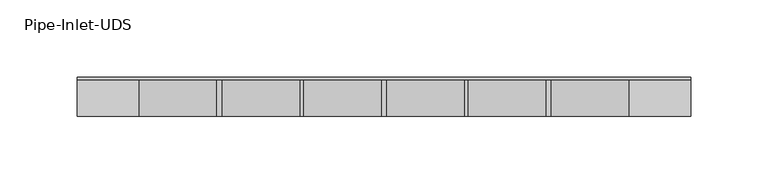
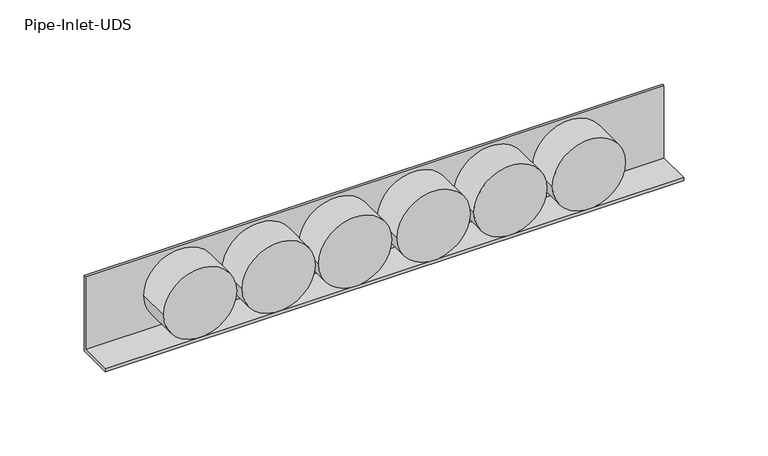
"""IFC4 building model written with IfcOpenShell, lengths in millimetres: cable carrier fitting geometry, Electrical-Installations_Hager_Pipe-Inlet-UDS : Pipe-Inlet-UDS."""

import ifcopenshell
import ifcopenshell.guid

model = None  # the IFC model being written
_history = None  # IfcOwnerHistory: only IFC2X3 demands one
_inside = {}  # id of a spatial element -> (the spatial element, [elements in it])
_under = {}  # id of a project, library or spatial element -> (it, [spatial elements below it])
_declared = {}  # id of a project -> (the project, [libraries it declares])
_typed = {}  # id of a type object -> (the type object, [elements of that type])
_made_of = {}  # id of a material, layer set ... -> (it, [elements and type objects made of it])


def new_model(schema):
    """Start an empty IFC model of exactly this schema.

    Asked for "IFC4X3", IfcOpenShell would pick the latest addendum, in which some entities
    have other attributes; the version numbers below select the first issue.
    IFC2X3 requires an IfcOwnerHistory on every rooted entity: one is made here for all.
    """
    global model, _history
    if schema == "IFC4X3":
        model = ifcopenshell.file(schema_version=(4, 3, 0, 0))
    else:
        model = ifcopenshell.file(schema=schema)
    _inside.clear()
    _under.clear()
    _declared.clear()
    _typed.clear()
    _made_of.clear()
    _history = None
    if model.schema == "IFC2X3":
        org = make("IfcOrganization", Name="unknown")
        user = make(
            "IfcPersonAndOrganization",
            ThePerson=make("IfcPerson", FamilyName="unknown"),
            TheOrganization=org,
        )
        app = make(
            "IfcApplication",
            ApplicationDeveloper=org,
            Version="unknown",
            ApplicationFullName="unknown",
            ApplicationIdentifier="unknown",
        )
        _history = make(
            "IfcOwnerHistory",
            OwningUser=user,
            OwningApplication=app,
            ChangeAction="ADDED",
            CreationDate=0,
        )
    return model


def make(cls, **values):
    """One entity of the class cls with the attributes given. An attribute that is None is left unset."""
    return model.create_entity(
        cls, **{name: value for name, value in values.items() if value is not None}
    )


def rooted(cls, **values):
    """An entity with a GlobalId (a new one), such as an element, a storey or a relation."""
    return make(cls, GlobalId=ifcopenshell.guid.new(), OwnerHistory=_history, **values)


def si_unit(unit_type, name, prefix=None):
    """IfcSIUnit, for example si_unit("LENGTHUNIT", "METRE", prefix="MILLI")."""
    return make("IfcSIUnit", UnitType=unit_type, Prefix=prefix, Name=name)


def assignment(units):
    """IfcUnitAssignment: the units of a project."""
    return None if units is None else make("IfcUnitAssignment", Units=units)


def point(xyz):
    """IfcCartesianPoint."""
    return None if xyz is None else make("IfcCartesianPoint", Coordinates=xyz)


def direction(xyz):
    """IfcDirection."""
    return None if xyz is None else make("IfcDirection", DirectionRatios=xyz)


def frame(location, z_axis=None, x_axis=None):
    """IfcAxis2Placement3D, a coordinate frame: its origin and axes. An axis left out is left unset."""
    return make(
        "IfcAxis2Placement3D",
        Location=point(location),
        Axis=direction(z_axis),
        RefDirection=direction(x_axis),
    )


def frame_2d(location, x_axis=None):
    """IfcAxis2Placement2D, a coordinate frame in the plane: its origin and x axis."""
    return make(
        "IfcAxis2Placement2D", Location=point(location), RefDirection=direction(x_axis)
    )


def origin():
    """The frame at (0, 0, 0) with its axes left unset."""
    return frame((0.0, 0.0, 0.0))


def place(relative_to, where):
    """IfcLocalPlacement: puts the frame where relative to a parent placement (None: the world)."""
    return make(
        "IfcLocalPlacement", PlacementRelTo=relative_to, RelativePlacement=where
    )


def context(
    kind, dimensions, precision=None, world=None, true_north=None, identifier=None
):
    """IfcGeometricRepresentationContext, for example the 3D "Model" context."""
    return make(
        "IfcGeometricRepresentationContext",
        ContextIdentifier=identifier,
        ContextType=kind,
        CoordinateSpaceDimension=dimensions,
        Precision=precision,
        WorldCoordinateSystem=world,
        TrueNorth=true_north,
    )


def project(units=None, contexts=None):
    """IfcProject with its units and contexts."""
    return rooted(
        "IfcProject",
        Name="project",
        RepresentationContexts=contexts,
        UnitsInContext=assignment(units),
    )


def spatial(cls, under=None, at=None, **own):
    """A site, building, storey or space (cls), placed at a placement, below another one or the project."""
    s = rooted(cls, ObjectPlacement=at, **own)
    if under is not None:
        _under.setdefault(under.id(), (under, []))[1].append(s)
    return s


def polyline(points):
    """IfcPolyline through the points."""
    return make("IfcPolyline", Points=[point(p) for p in points])


def circle_curve(where, radius):
    """IfcCircle in the frame where."""
    return make("IfcCircle", Position=where, Radius=radius)


def trimmed(basis, trim1, trim2, sense, master):
    """IfcTrimmedCurve: the piece of a basis curve between two trims."""
    return make(
        "IfcTrimmedCurve",
        BasisCurve=basis,
        Trim1=trim1,
        Trim2=trim2,
        SenseAgreement=sense,
        MasterRepresentation=master,
    )


def segment(curve, same_sense, transition):
    """IfcCompositeCurveSegment."""
    return make(
        "IfcCompositeCurveSegment",
        Transition=transition,
        SameSense=same_sense,
        ParentCurve=curve,
    )


def composite_curve(segments, self_intersect=None):
    """IfcCompositeCurve: segments joined end to end."""
    return make("IfcCompositeCurve", Segments=segments, SelfIntersect=self_intersect)


def outline(outer, holes=None, kind="AREA"):
    """IfcArbitraryClosedProfileDef: a profile drawn as a closed curve; with holes, ...WithVoids."""
    if holes is None:
        return make("IfcArbitraryClosedProfileDef", ProfileType=kind, OuterCurve=outer)
    return make(
        "IfcArbitraryProfileDefWithVoids",
        ProfileType=kind,
        OuterCurve=outer,
        InnerCurves=holes,
    )


def extrude(swept, where, along, depth):
    """IfcExtrudedAreaSolid: the profile swept, set in the frame where, extruded along a direction by depth."""
    return make(
        "IfcExtrudedAreaSolid",
        SweptArea=swept,
        Position=where,
        ExtrudedDirection=direction(along),
        Depth=depth,
    )


def shape(context_of_items, identifier, shape_type, items):
    """IfcShapeRepresentation: the items that make up one representation, for example the "Body"."""
    return make(
        "IfcShapeRepresentation",
        ContextOfItems=context_of_items,
        RepresentationIdentifier=identifier,
        RepresentationType=shape_type,
        Items=items,
    )


def source(mapping_origin, context_of_items, identifier, shape_type, items):
    """IfcRepresentationMap: a shape defined once, which mapped items show again and again."""
    return make(
        "IfcRepresentationMap",
        MappingOrigin=mapping_origin,
        MappedRepresentation=shape(context_of_items, identifier, shape_type, items),
    )


def transform(
    local_origin,
    x_axis=None,
    y_axis=None,
    z_axis=None,
    scale=None,
    scale2=None,
    scale3=None,
    uniform=True,
):
    """IfcCartesianTransformationOperator3D, or its non-uniform kind. x_axis, y_axis, z_axis: its Axis1, 2, 3."""
    if uniform:
        return make(
            "IfcCartesianTransformationOperator3D",
            Axis1=direction(x_axis),
            Axis2=direction(y_axis),
            LocalOrigin=point(local_origin),
            Scale=scale,
            Axis3=direction(z_axis),
        )
    return make(
        "IfcCartesianTransformationOperator3DnonUniform",
        Axis1=direction(x_axis),
        Axis2=direction(y_axis),
        LocalOrigin=point(local_origin),
        Scale=scale,
        Axis3=direction(z_axis),
        Scale2=scale2,
        Scale3=scale3,
    )


def mapped(mapping_source, mapping_target):
    """IfcMappedItem: shows the shape of a source again, moved by a transform."""
    return make(
        "IfcMappedItem", MappingSource=mapping_source, MappingTarget=mapping_target
    )


def made_of(thing, what):
    """Note that an element or type object is made of a material, layer set ...; save() writes the relation."""
    if what is not None:
        _made_of.setdefault(what.id(), (what, []))[1].append(thing)
    return thing


def element(
    cls,
    number,
    at=None,
    inside=None,
    cuts=None,
    type_object=None,
    material=None,
    context=None,
    identifier="Body",
    shape_type=None,
    held_by="IfcProductDefinitionShape",
    body=None,
    shapes=None,
    **own,
):
    """One element of the class cls, such as IfcWall. Its Tag is "e" and its number.

    at: its placement. inside: the storey or other place that contains it. cuts: it is an
    opening in that element (IfcRelVoidsElement). A single representation is given by context,
    identifier, shape_type and body (its items); several are given by shapes. held_by: the class
    of the entity that holds the representations. save() writes the other relations.
    """
    e = rooted(cls, Tag="e%d" % number, ObjectPlacement=at, **own)
    if body is not None:
        shapes = [shape(context, identifier, shape_type, body)]
    if shapes is not None:
        e.Representation = make(held_by, Representations=shapes)
    if inside is not None:
        _inside.setdefault(inside.id(), (inside, []))[1].append(e)
    if cuts is not None:
        rooted(
            "IfcRelVoidsElement", RelatingBuildingElement=cuts, RelatedOpeningElement=e
        )
    if type_object is not None:
        _typed.setdefault(type_object.id(), (type_object, []))[1].append(e)
    return made_of(e, material)


def aggregate(whole, parts):
    """IfcRelAggregates: a whole, such as a stair, and the parts it consists of."""
    return rooted("IfcRelAggregates", RelatingObject=whole, RelatedObjects=parts)


def save(model, path):
    """Write the relations noted so far, then the file.

    IfcRelAggregates (storeys below a building ...), IfcRelContainedInSpatialStructure (elements
    in a storey), IfcRelDefinesByType, IfcRelAssociatesMaterial and IfcRelDeclares: one each for
    every whole, place, type object, material and project.
    """
    for whole, parts in _under.values():
        aggregate(whole, parts)
    for where, things in _inside.values():
        rooted(
            "IfcRelContainedInSpatialStructure",
            RelatedElements=things,
            RelatingStructure=where,
        )
    for kind, things in _typed.values():
        rooted("IfcRelDefinesByType", RelatedObjects=things, RelatingType=kind)
    for what, things in _made_of.values():
        rooted("IfcRelAssociatesMaterial", RelatedObjects=things, RelatingMaterial=what)
    for by, libraries in _declared.values():
        rooted("IfcRelDeclares", RelatingContext=by, RelatedDefinitions=libraries)
    model.write(path)


def pipe_inlet_uds_f426f647(model_context):
    return source(origin(), model_context, "Body", "SweptSolid", [
        extrude(outline(composite_curve([segment(trimmed(circle_curve(frame_2d((0.0, -25.0)), 25.0), [point((0.0, -50.0))], [point((0.0, 0.0))], False, "CARTESIAN"), True, "CONTINUOUS"), segment(trimmed(circle_curve(frame_2d((0.0, -25.0)), 25.0), [point((0.0, 0.0))], [point((0.0, -50.0))], False, "CARTESIAN"), True, "CONTINUOUS")], self_intersect=False)), frame((108.0641165, -25.0, 27.052803), z_axis=(-1.7973514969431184e-12, 1.0, 0.0), x_axis=(0.0, 0.0, -1.0)), (0.0, 0.0, 1.0), 23.5),
        extrude(outline(composite_curve([segment(trimmed(circle_curve(frame_2d((0.0, 28.75)), 25.0), [point((0.0, 3.75))], [point((0.0, 53.75))], False, "CARTESIAN"), True, "CONTINUOUS"), segment(trimmed(circle_curve(frame_2d((0.0, 28.75)), 25.0), [point((0.0, 53.75))], [point((0.0, 3.75))], False, "CARTESIAN"), True, "CONTINUOUS")], self_intersect=False)), frame((108.0641165, -25.0, 27.052803), z_axis=(-1.7973514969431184e-12, 1.0, 0.0), x_axis=(0.0, 0.0, -1.0)), (0.0, 0.0, 1.0), 23.5),
        extrude(outline(composite_curve([segment(trimmed(circle_curve(frame_2d((0.0, 81.25)), 25.0), [point((0.0, 56.25))], [point((0.0, 106.25))], False, "CARTESIAN"), True, "CONTINUOUS"), segment(trimmed(circle_curve(frame_2d((0.0, 81.25)), 25.0), [point((0.0, 106.25))], [point((0.0, 56.25))], False, "CARTESIAN"), True, "CONTINUOUS")], self_intersect=False)), frame((108.0641165, -25.0, 27.052803), z_axis=(-1.7973514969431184e-12, 1.0, 0.0), x_axis=(0.0, 0.0, -1.0)), (0.0, 0.0, 1.0), 23.5),
        extrude(outline(composite_curve([segment(trimmed(circle_curve(frame_2d((0.0, 135.0)), 25.0), [point((0.0, 110.0))], [point((0.0, 160.0))], False, "CARTESIAN"), True, "CONTINUOUS"), segment(trimmed(circle_curve(frame_2d((0.0, 135.0)), 25.0), [point((0.0, 160.0))], [point((0.0, 110.0))], False, "CARTESIAN"), True, "CONTINUOUS")], self_intersect=False)), frame((108.0641165, -25.0, 27.052803), z_axis=(-1.7973514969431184e-12, 1.0, 0.0), x_axis=(0.0, 0.0, -1.0)), (0.0, 0.0, 1.0), 23.5),
        extrude(outline(composite_curve([segment(trimmed(circle_curve(frame_2d((0.0, 187.5)), 25.0), [point((0.0, 162.5))], [point((0.0, 212.5))], False, "CARTESIAN"), True, "CONTINUOUS"), segment(trimmed(circle_curve(frame_2d((0.0, 187.5)), 25.0), [point((0.0, 212.5))], [point((0.0, 162.5))], False, "CARTESIAN"), True, "CONTINUOUS")], self_intersect=False)), frame((108.0641165, -25.0, 27.052803), z_axis=(-1.7973514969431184e-12, 1.0, 0.0), x_axis=(0.0, 0.0, -1.0)), (0.0, 0.0, 1.0), 23.5),
        extrude(outline(composite_curve([segment(trimmed(circle_curve(frame_2d((0.0, 241.25)), 25.0), [point((0.0, 216.25))], [point((0.0, 266.25))], False, "CARTESIAN"), True, "CONTINUOUS"), segment(trimmed(circle_curve(frame_2d((0.0, 241.25)), 25.0), [point((0.0, 266.25))], [point((0.0, 216.25))], False, "CARTESIAN"), True, "CONTINUOUS")], self_intersect=False)), frame((108.0641165, -25.0, 27.052803), z_axis=(-1.7973514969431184e-12, 1.0, 0.0), x_axis=(0.0, 0.0, -1.0)), (0.0, 0.0, 1.0), 23.5),
        extrude(outline(polyline([(-52.5, 0.0), (0.0, 0.0), (0.0, -1.5), (-54.5, -1.5), (-54.5, 23.5), (-52.5, 23.5), (-52.5, 0.0)])), frame((-198.0, -1.5, 54.5), z_axis=(1.0, 1.7973514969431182e-12, 0.0), x_axis=(0.0, -1.058842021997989e-12, 1.0)), (0.0, 0.0, 1.0), 396.0),
    ])


if __name__ == "__main__":
    model = new_model("IFC4")
    model_context = context("Model", 3, world=origin())
    ifc_project = project(units=[si_unit("LENGTHUNIT", "METRE", prefix="MILLI")], contexts=[model_context])
    site = spatial("IfcSite", under=ifc_project)
    building = spatial("IfcBuilding", under=site)
    placement = place(None, origin())
    pipe_inlet_uds_shape = pipe_inlet_uds_f426f647(model_context)
    element("IfcCableCarrierFitting", 1, ObjectType="Electrical-Installations_Hager_Pipe-Inlet-UDS : Pipe-Inlet-UDS", at=placement, inside=building, context=model_context, shape_type="MappedRepresentation", body=[
        mapped(pipe_inlet_uds_shape, transform((0.0, 0.0, 0.0), x_axis=(1.0, 0.0, 0.0), y_axis=(0.0, 1.0, 0.0), z_axis=(0.0, 0.0, 1.0))),
    ])
    save(model, "model.ifc")
